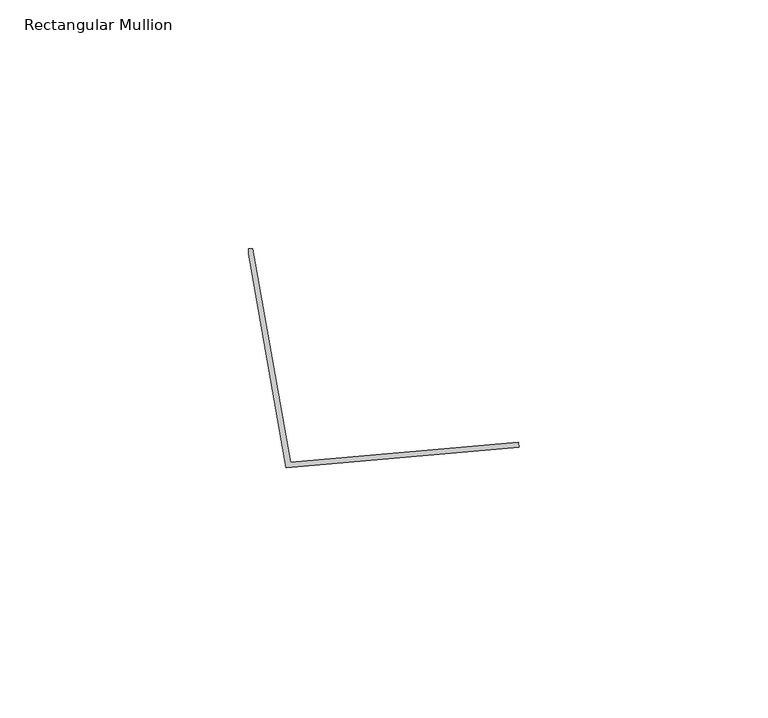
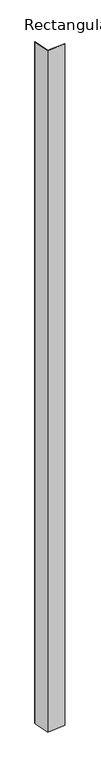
"""IFC4 building model written with IfcOpenShell, lengths in millimetres: member geometry, Rectangular Mullion : CD_NINELINE_Batten Start."""

from ifc_helpers import new_model, si_unit, frame, origin, place, context, project, spatial, polyline, outline, extrude, source, transform, mapped, element, save


def rectangular_mullion_19053268(model_context):
    return source(origin(), model_context, "Body", "SweptSolid", [
        extrude(outline(polyline([(-54.4029206, -0.9999629), (-54.4029206, 3.78e-05), (-53.5638148, 3.78e-05), (-45.9954846, -42.9239479), (-0.0871484, -38.9078303), (0.0, -39.9040256), (-46.821181, -44.0), (-54.4029206, -0.9999629)])), frame((0.0, 0.0, -1855.0), z_axis=(0.0, 0.0, 1.0), x_axis=(1.0, 0.0, 0.0)), (0.0, 0.0, 1.0), 1855.0),
    ])


if __name__ == "__main__":
    model = new_model("IFC4")
    model_context = context("Model", 3, world=origin())
    ifc_project = project(units=[si_unit("LENGTHUNIT", "METRE", prefix="MILLI")], contexts=[model_context])
    site = spatial("IfcSite", under=ifc_project)
    building = spatial("IfcBuilding", under=site)
    placement = place(None, origin())
    rectangular_mullion_shape = rectangular_mullion_19053268(model_context)
    element("IfcMember", 1, ObjectType="Rectangular Mullion : CD_NINELINE_Batten Start", at=placement, inside=building, context=model_context, shape_type="MappedRepresentation", body=[
        mapped(rectangular_mullion_shape, transform((0.0, 0.0, 0.0), x_axis=(1.0, 0.0, 0.0), y_axis=(0.0, 1.0, 0.0), z_axis=(0.0, 0.0, 1.0))),
    ])
    save(model, "model.ifc")
